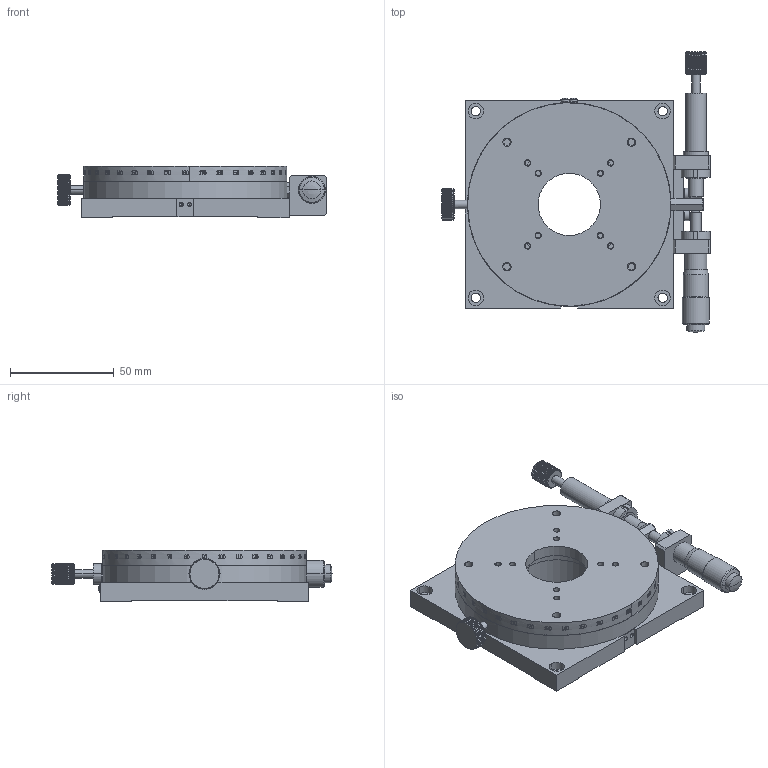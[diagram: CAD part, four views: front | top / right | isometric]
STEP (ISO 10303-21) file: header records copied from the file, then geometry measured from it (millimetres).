
FILE_DESCRIPTION( (''), '2;1');
FILE_NAME ('RM10A-C1-R.stp','2021-06-01T08:58:50',(''),(''),'spGate 15.6.6','','');
FILE_SCHEMA (('AUTOMOTIVE_DESIGN'));
Length unit declared in the file: millimetre
Products named in the file (3): Assembly; RM10A-C1-R-prt0; RM10A-C1-R-prt1
Assembly tree (2 placements, depth 2):
  Assembly
    RM10A-C1-R-prt0
    RM10A-C1-R-prt1
Bounding box: 129.5 x 135 x 25 mm (x, y, z)
Volume: 118239.6 mm3; surface area: 64339.2 mm2
Topology: 1 solids, 2 shells, 2822 faces, 7873 edges, 5227 vertices
Faces by surface type: plane 2325, cylinder 335, bspline 152, sphere 10
Entity records: 158157 total; most frequent: CARTESIAN_POINT 25346, ORIENTED_EDGE 16278, DIRECTION 12028, COLOUR_RGB 11273, PRESENTATION_STYLE_ASSIGNMENT 11273, STYLED_ITEM 11273, EDGE_CURVE 8449, DRAUGHTING_PRE_DEFINED_CURVE_FONT 8449
